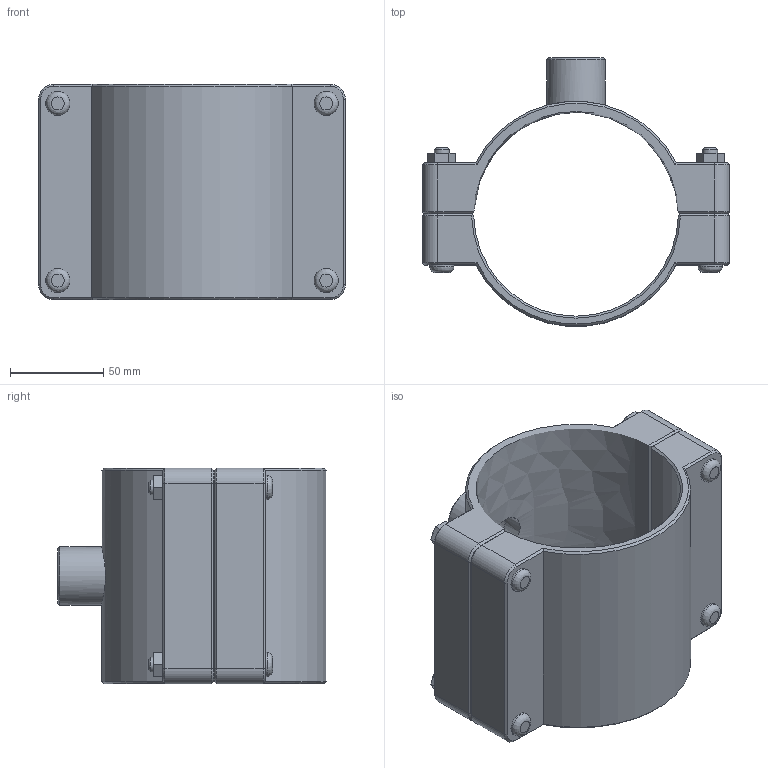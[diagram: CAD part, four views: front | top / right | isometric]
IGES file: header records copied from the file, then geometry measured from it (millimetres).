
Global section: file name: 160760110007_160860110007.ipt; native system: Autodesk Inventor 2015; preprocessor: unknown; author: KIM; date: 20170618.093536; units: millimetre
Bounding box: 165 x 144.28 x 116 mm (x, y, z)
Volume: 546061.1 mm3; surface area: 120461.5 mm2
Topology: 1 solids, 1 shells, 141 faces, 328 edges, 205 vertices
Faces by surface type: plane 82, cone 25, cylinder 23, revolution 11
Full cylindrical faces by diameter (mm): 8 x4, 13 x8, 31.352 x1
